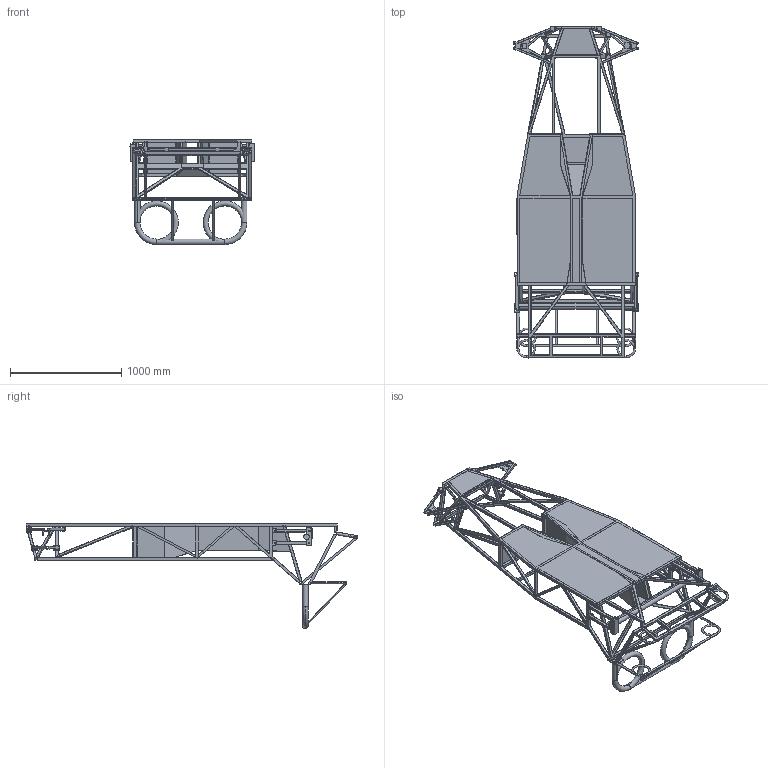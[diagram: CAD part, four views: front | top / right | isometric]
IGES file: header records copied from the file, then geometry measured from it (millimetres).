
Start section: Parasolid data in IGES format
Global section: file name: De Dion 3D Chassis.igs; native system: Parasolid(11.1); preprocessor: Pariges 4.4; author: Administrator; organization: ProDESKTOP 6.0; date: 20040922.102513; units: millimetre
Bounding box: 1126.19 x 2988.79 x 947.46 mm (x, y, z)
Volume: 23541972.1 mm3; surface area: 15004340.6 mm2
Topology: 87 solids, 91 shells, 1408 faces, 3692 edges, 2430 vertices
Faces by surface type: plane 1080, cylinder 304, torus 24
